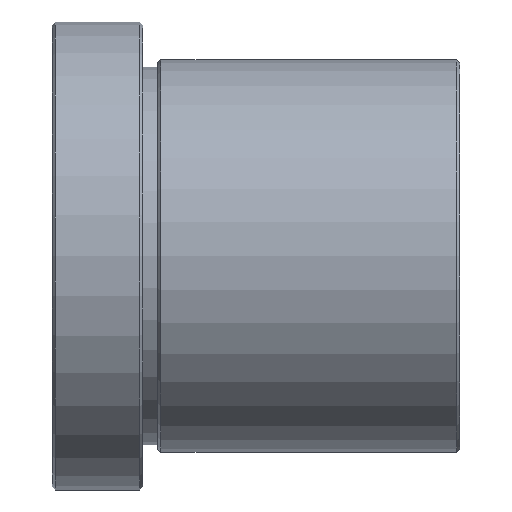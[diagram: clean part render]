
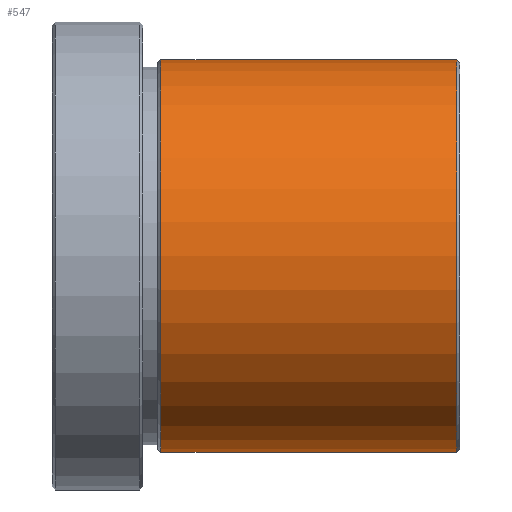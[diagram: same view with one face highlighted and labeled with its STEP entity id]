
A CAD part, top view. The second image highlights one B-rep face of the part: STEP entity #547.
In plain terms, the highlighted cylindrical face has radius 13 mm (diameter 26 mm), a partial arc.
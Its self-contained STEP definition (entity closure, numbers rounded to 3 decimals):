
#148 = ORIENTED_EDGE ( 'NONE', *, *, #527, .T. ) ;
#155 = ORIENTED_EDGE ( 'NONE', *, *, #492, .T. ) ;
#161 = EDGE_LOOP ( 'NONE', ( #155, #148, #223, #435 ) ) ;
#206 = DIRECTION ( 'NONE',  ( 0., 1., 0. ) ) ;
#207 = DIRECTION ( 'NONE',  ( -1., 0., 0. ) ) ;
#208 = CARTESIAN_POINT ( 'NONE',  ( -0.201, 0., 0. ) ) ;
#223 = ORIENTED_EDGE ( 'NONE', *, *, #535, .T. ) ;
#224 = CARTESIAN_POINT ( 'NONE',  ( 0., -13., 0. ) ) ;
#225 = DIRECTION ( 'NONE',  ( 1., 0., 0. ) ) ;
#227 = DIRECTION ( 'NONE',  ( 1., 0., 0. ) ) ;
#228 = LINE ( 'NONE', #224, #633 ) ;
#234 = LINE ( 'NONE', #238, #650 ) ;
#238 = CARTESIAN_POINT ( 'NONE',  ( 0., 13., 0. ) ) ;
#362 = DIRECTION ( 'NONE',  ( 0., -1., 0. ) ) ;
#363 = DIRECTION ( 'NONE',  ( 1., 0., 0. ) ) ;
#364 = CARTESIAN_POINT ( 'NONE',  ( -19.8, 0., 0. ) ) ;
#378 = CARTESIAN_POINT ( 'NONE',  ( -0.201, 13., 0. ) ) ;
#379 = CARTESIAN_POINT ( 'NONE',  ( -0.201, -13., 0. ) ) ;
#382 = CARTESIAN_POINT ( 'NONE',  ( -19.8, -13., 0. ) ) ;
#383 = CARTESIAN_POINT ( 'NONE',  ( -19.8, 13., 0. ) ) ;
#400 = VERTEX_POINT ( 'NONE', #383 ) ;
#401 = VERTEX_POINT ( 'NONE', #382 ) ;
#404 = VERTEX_POINT ( 'NONE', #379 ) ;
#405 = VERTEX_POINT ( 'NONE', #378 ) ;
#435 = ORIENTED_EDGE ( 'NONE', *, *, #526, .F. ) ;
#488 = DIRECTION ( 'NONE',  ( 0., 1., 0. ) ) ;
#489 = DIRECTION ( 'NONE',  ( 1., 0., 0. ) ) ;
#492 = EDGE_CURVE ( 'NONE', #400, #401, #619, .T. ) ;
#526 = EDGE_CURVE ( 'NONE', #400, #405, #234, .T. ) ;
#527 = EDGE_CURVE ( 'NONE', #401, #404, #228, .T. ) ;
#535 = EDGE_CURVE ( 'NONE', #404, #405, #642, .T. ) ;
#547 = ADVANCED_FACE ( 'NONE', ( #566 ), #571, .T. ) ;
#566 = FACE_OUTER_BOUND ( 'NONE', #161, .T. ) ;
#570 = CARTESIAN_POINT ( 'NONE',  ( 0., 0., 0. ) ) ;
#571 = CYLINDRICAL_SURFACE ( 'NONE', #673, 13. ) ;
#619 = CIRCLE ( 'NONE', #622, 13. ) ;
#622 = AXIS2_PLACEMENT_3D ( 'NONE', #364, #363, #362 ) ;
#633 = VECTOR ( 'NONE', #225, 1000. ) ;
#641 = AXIS2_PLACEMENT_3D ( 'NONE', #208, #207, #206 ) ;
#642 = CIRCLE ( 'NONE', #641, 13. ) ;
#650 = VECTOR ( 'NONE', #227, 1000. ) ;
#673 = AXIS2_PLACEMENT_3D ( 'NONE', #570, #489, #488 ) ;
